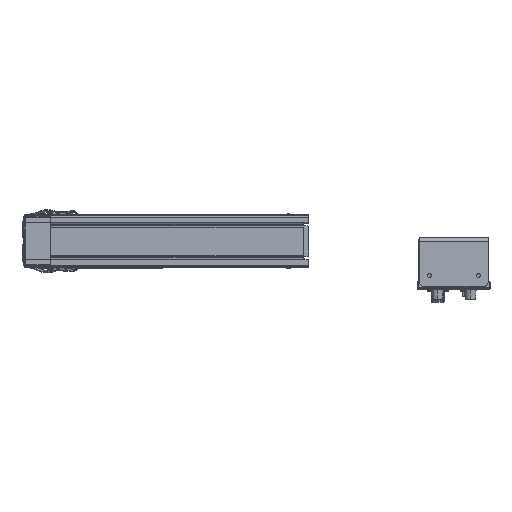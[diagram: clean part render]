
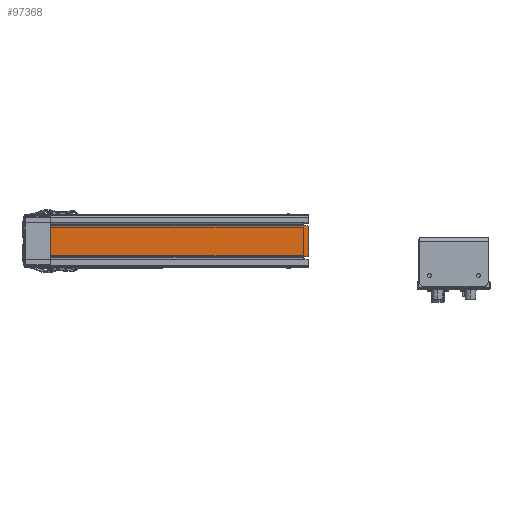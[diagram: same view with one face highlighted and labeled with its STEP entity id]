
A CAD part, top view. The second image highlights one B-rep face of the part: STEP entity #97368.
In plain terms, the highlighted planar face has unit normal (0, 0, 1).
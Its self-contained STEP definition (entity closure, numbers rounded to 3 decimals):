
#4159 = DIRECTION ( 'NONE',  ( 0., 0., 1. ) ) ;
#4609 = VECTOR ( 'NONE', #53713, 1000. ) ;
#7409 = DIRECTION ( 'NONE',  ( 1., 0., 0. ) ) ;
#8188 = EDGE_CURVE ( 'NONE', #120602, #41118, #99238, .T. ) ;
#8467 = VECTOR ( 'NONE', #70261, 1000. ) ;
#8920 = VERTEX_POINT ( 'NONE', #115212 ) ;
#10545 = ORIENTED_EDGE ( 'NONE', *, *, #121945, .F. ) ;
#11991 = FACE_OUTER_BOUND ( 'NONE', #24924, .T. ) ;
#12623 = CARTESIAN_POINT ( 'NONE',  ( 250., 25.465, 0. ) ) ;
#13616 = CARTESIAN_POINT ( 'NONE',  ( 250., 30., 0. ) ) ;
#19630 = DIRECTION ( 'NONE',  ( -1., 0., 0. ) ) ;
#21872 = AXIS2_PLACEMENT_3D ( 'NONE', #22729, #99236, #118707 ) ;
#22729 = CARTESIAN_POINT ( 'NONE',  ( 0., 0., 0. ) ) ;
#24924 = EDGE_LOOP ( 'NONE', ( #68330, #116621, #82455, #10545, #107964, #109109, #97075, #121041 ) ) ;
#30898 = LINE ( 'NONE', #97326, #45476 ) ;
#31041 = LINE ( 'NONE', #87983, #8467 ) ;
#35048 = CARTESIAN_POINT ( 'NONE',  ( 250., -25.465, 0. ) ) ;
#35216 = CARTESIAN_POINT ( 'NONE',  ( -250., -28.465, 0. ) ) ;
#39640 = EDGE_CURVE ( 'NONE', #69778, #114109, #30898, .T. ) ;
#39761 = AXIS2_PLACEMENT_3D ( 'NONE', #53566, #113549, #7409 ) ;
#40828 = LINE ( 'NONE', #13616, #87156 ) ;
#41118 = VERTEX_POINT ( 'NONE', #111082 ) ;
#42140 = CARTESIAN_POINT ( 'NONE',  ( -250., 28.465, 0. ) ) ;
#45476 = VECTOR ( 'NONE', #59996, 1000. ) ;
#52448 = DIRECTION ( 'NONE',  ( 1., 0., 0. ) ) ;
#53566 = CARTESIAN_POINT ( 'NONE',  ( 247., -25.465, 0. ) ) ;
#53713 = DIRECTION ( 'NONE',  ( 1., 0., 0. ) ) ;
#59996 = DIRECTION ( 'NONE',  ( 0., -1., 0. ) ) ;
#60423 = DIRECTION ( 'NONE',  ( 0., 1., 0. ) ) ;
#60703 = CARTESIAN_POINT ( 'NONE',  ( -250.559, 28.465, 0. ) ) ;
#62950 = VERTEX_POINT ( 'NONE', #12623 ) ;
#63227 = CARTESIAN_POINT ( 'NONE',  ( -250.559, 28.465, 0. ) ) ;
#68330 = ORIENTED_EDGE ( 'NONE', *, *, #72714, .T. ) ;
#69778 = VERTEX_POINT ( 'NONE', #42140 ) ;
#70261 = DIRECTION ( 'NONE',  ( -1., 0., 0. ) ) ;
#72702 = VECTOR ( 'NONE', #52448, 1000. ) ;
#72714 = EDGE_CURVE ( 'NONE', #74096, #62950, #40828, .T. ) ;
#74096 = VERTEX_POINT ( 'NONE', #35048 ) ;
#80295 = PLANE ( 'NONE',  #21872 ) ;
#80353 = LINE ( 'NONE', #63227, #4609 ) ;
#82455 = ORIENTED_EDGE ( 'NONE', *, *, #87508, .F. ) ;
#84470 = CIRCLE ( 'NONE', #110635, 3. ) ;
#85695 = EDGE_CURVE ( 'NONE', #62950, #111691, #84470, .T. ) ;
#87156 = VECTOR ( 'NONE', #60423, 1000. ) ;
#87508 = EDGE_CURVE ( 'NONE', #8920, #111691, #108680, .T. ) ;
#87983 = CARTESIAN_POINT ( 'NONE',  ( 250., -28.465, 0. ) ) ;
#91391 = CARTESIAN_POINT ( 'NONE',  ( 247., 25.465, 0. ) ) ;
#96245 = EDGE_CURVE ( 'NONE', #120602, #74096, #110369, .T. ) ;
#97075 = ORIENTED_EDGE ( 'NONE', *, *, #8188, .F. ) ;
#97326 = CARTESIAN_POINT ( 'NONE',  ( -250., 30., 0. ) ) ;
#97368 = ADVANCED_FACE ( 'NONE', ( #11991 ), #80295, .T. ) ;
#99236 = DIRECTION ( 'NONE',  ( 0., 0., 1. ) ) ;
#99238 = LINE ( 'NONE', #106818, #104448 ) ;
#100241 = DIRECTION ( 'NONE',  ( 1., 0., 0. ) ) ;
#102105 = EDGE_CURVE ( 'NONE', #41118, #114109, #31041, .T. ) ;
#104448 = VECTOR ( 'NONE', #19630, 1000. ) ;
#106818 = CARTESIAN_POINT ( 'NONE',  ( 250., -28.465, 0. ) ) ;
#107964 = ORIENTED_EDGE ( 'NONE', *, *, #39640, .T. ) ;
#108680 = LINE ( 'NONE', #60703, #72702 ) ;
#109109 = ORIENTED_EDGE ( 'NONE', *, *, #102105, .F. ) ;
#110369 = CIRCLE ( 'NONE', #39761, 3. ) ;
#110635 = AXIS2_PLACEMENT_3D ( 'NONE', #91391, #4159, #100241 ) ;
#111082 = CARTESIAN_POINT ( 'NONE',  ( 240., -28.465, 0. ) ) ;
#111691 = VERTEX_POINT ( 'NONE', #114269 ) ;
#113549 = DIRECTION ( 'NONE',  ( 0., 0., 1. ) ) ;
#114109 = VERTEX_POINT ( 'NONE', #35216 ) ;
#114269 = CARTESIAN_POINT ( 'NONE',  ( 247., 28.465, 0. ) ) ;
#115212 = CARTESIAN_POINT ( 'NONE',  ( 240., 28.465, 0. ) ) ;
#116621 = ORIENTED_EDGE ( 'NONE', *, *, #85695, .T. ) ;
#118707 = DIRECTION ( 'NONE',  ( 1., 0., 0. ) ) ;
#120602 = VERTEX_POINT ( 'NONE', #122549 ) ;
#121041 = ORIENTED_EDGE ( 'NONE', *, *, #96245, .T. ) ;
#121945 = EDGE_CURVE ( 'NONE', #69778, #8920, #80353, .T. ) ;
#122549 = CARTESIAN_POINT ( 'NONE',  ( 247., -28.465, 0. ) ) ;
